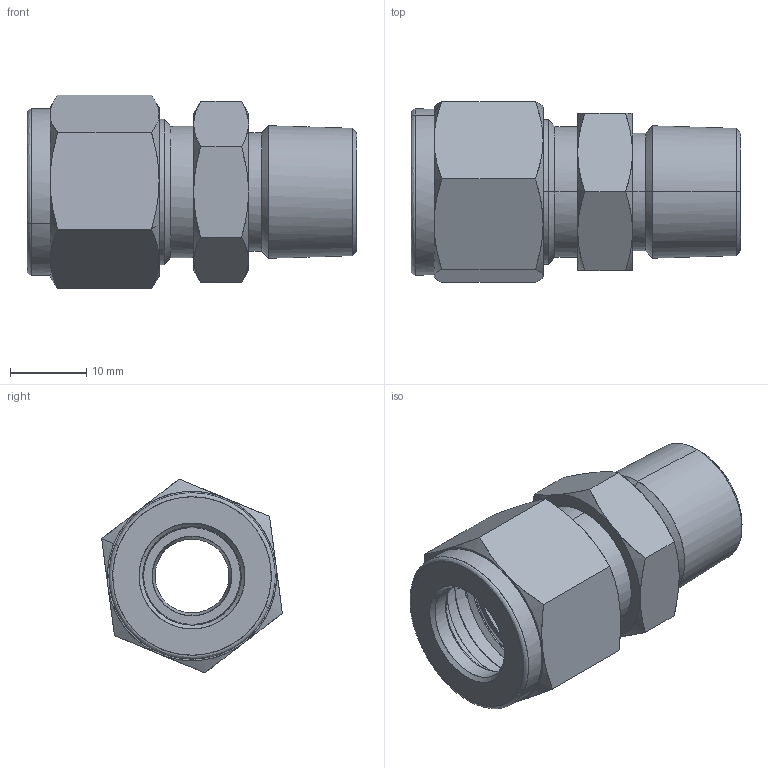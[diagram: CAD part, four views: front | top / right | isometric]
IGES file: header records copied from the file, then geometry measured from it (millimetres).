
Start section: Comment
Global section: file name: SMC8-6N.igs; native system:  By UGS Corp.; preprocessor: XPlus GENERIC/IGES 3.0; author: Author; organization: Title; date: 20100113.145236; units: millimetre
Bounding box: 43.24 x 23.72 x 25.44 mm (x, y, z)
Surface area: 6688.3 mm2 (no closed solid volume)
Topology: 0 solids, 0 shells, 116 faces, 675 edges, 672 vertices
Faces by surface type: bspline 116
